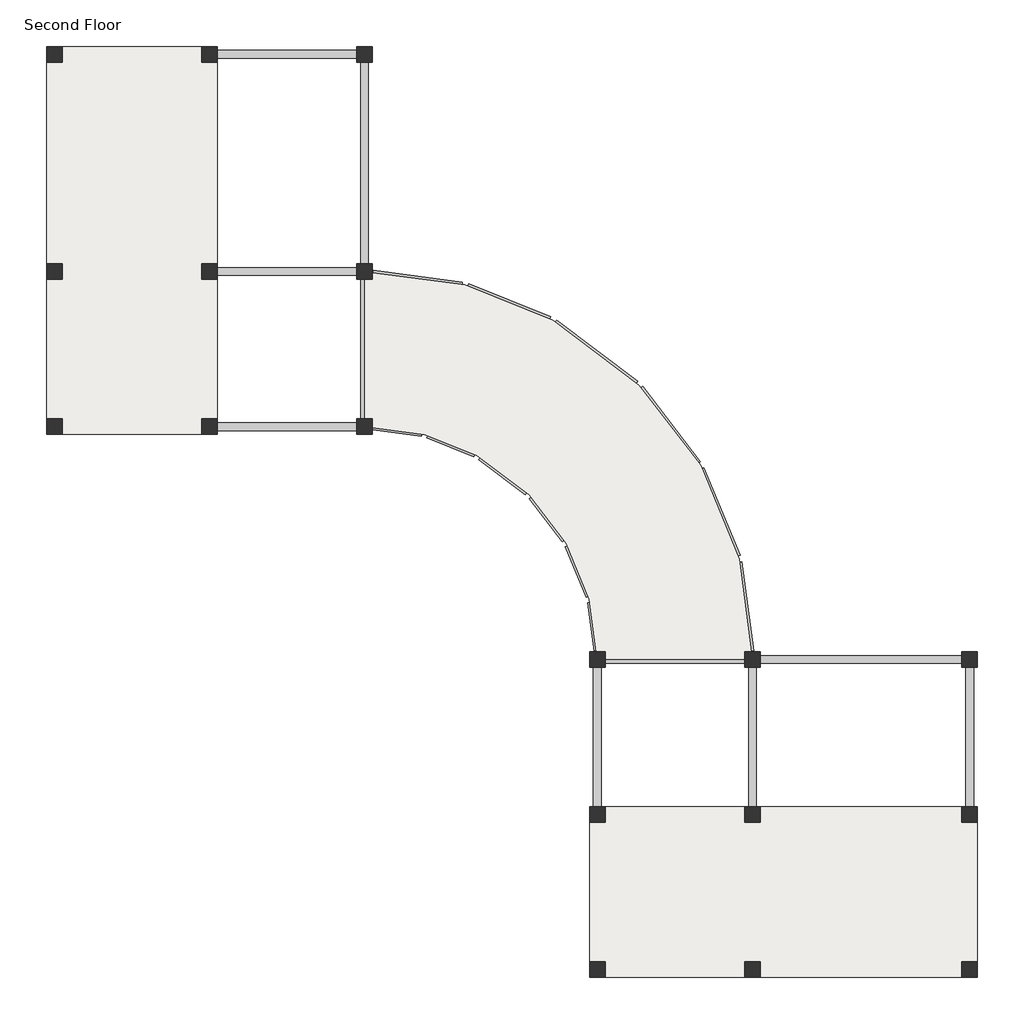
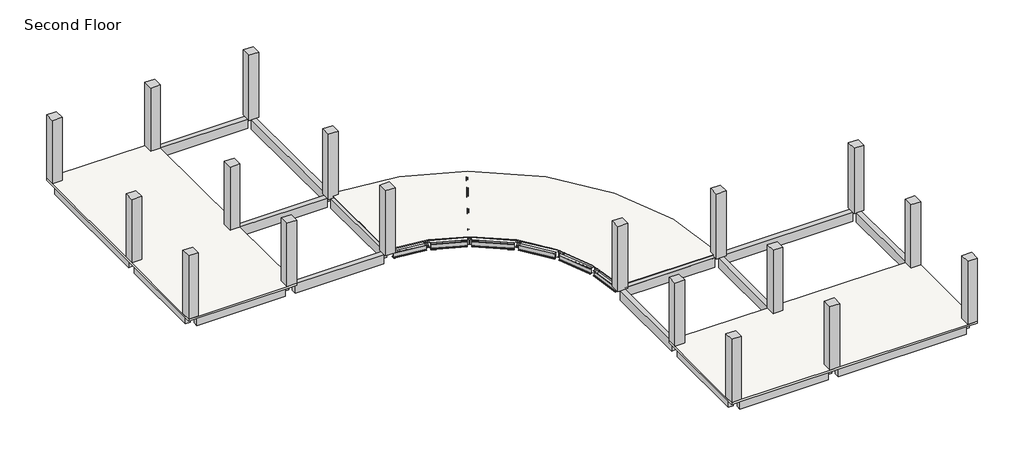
# One storey: 42 beams, 18 columns, 3 slabs.
"""IFC4 building model written with IfcOpenShell, lengths in millimetres."""

from ifc_helpers import new_model, si_unit, frame, origin, place, context, project, spatial, polyline, outline, extrude, faceted_brep, transform, mapped, element, save
from components import w_wide_flange_w14x30_ff084ddf, w_wide_flange_w14x30_d1529a52, w_wide_flange_w14x30_957304bb, w_wide_flange_w14x30_791045be, w_wide_flange_w14x30_2022d981, w_wide_flange_w14x30_3de07e4c, w_wide_flange_w14x30_6ec3b930, w_wide_flange_w14x30_ee78d664, w_wide_flange_w14x30_b7f05329, w_wide_flange_w14x30_b412955c, w_wide_flange_w14x30_b4bd2e2d, w_wide_flange_w14x30_0931c2c5

model = new_model("IFC4")

# Units and contexts
model_context = context("Model", 3, world=origin())
ifc_project = project(units=[si_unit("LENGTHUNIT", "METRE", prefix="MILLI")], contexts=[model_context])

# Site, building, storey
site = spatial("IfcSite", under=ifc_project)
building = spatial("IfcBuilding", under=site)
storey = spatial("IfcBuildingStorey", under=building, Name="Second Floor", Elevation=3048.0)

# Beams
placement = place(None, origin())
element("IfcBeam", 1, ObjectType="Concrete-Rectangular Beam : 12 x 24", at=placement, inside=storey, context=model_context, shape_type="SweptSolid", body=[
    extrude(outline(polyline([(-26717.2148109, 13379.849478), (-26717.2148109, 13075.049478), (-32203.6148109, 13075.049478), (-32203.6148109, 13379.849478), (-26717.2148109, 13379.849478)])), frame((0.0, 0.0, 2438.4), z_axis=(0.0, 0.0, 1.0), x_axis=(1.0, 0.0, 0.0)), (0.0, 0.0, 1.0), 609.6),
])
element("IfcBeam", 2, ObjectType="Concrete-Rectangular Beam : 12 x 24", at=placement, inside=storey, context=model_context, shape_type="SweptSolid", body=[
    extrude(outline(polyline([(-32813.2148109, 13379.849478), (-32813.2148109, 13075.049478), (-38299.6148109, 13075.049478), (-38299.6148109, 13379.849478), (-32813.2148109, 13379.849478)])), frame((0.0, 0.0, 2438.4), z_axis=(0.0, 0.0, 1.0), x_axis=(1.0, 0.0, 0.0)), (0.0, 0.0, 1.0), 609.6),
])
element("IfcBeam", 3, ObjectType="Concrete-Rectangular Beam : 12 x 24", at=placement, inside=storey, context=model_context, shape_type="SweptSolid", body=[
    extrude(outline(polyline([(-26717.2148109, -1250.550522), (-26717.2148109, -1555.350522), (-32203.6148109, -1555.350522), (-32203.6148109, -1250.550522), (-26717.2148109, -1250.550522)])), frame((0.0, 0.0, 2438.4), z_axis=(0.0, 0.0, 1.0), x_axis=(1.0, 0.0, 0.0)), (0.0, 0.0, 1.0), 609.6),
])
element("IfcBeam", 4, ObjectType="Concrete-Rectangular Beam : 12 x 24", at=placement, inside=storey, context=model_context, shape_type="SweptSolid", body=[
    extrude(outline(polyline([(-32813.2148109, -1250.550522), (-32813.2148109, -1555.350522), (-38299.6148109, -1555.350522), (-38299.6148109, -1250.550522), (-32813.2148109, -1250.550522)])), frame((0.0, 0.0, 2438.4), z_axis=(0.0, 0.0, 1.0), x_axis=(1.0, 0.0, 0.0)), (0.0, 0.0, 1.0), 609.6),
])
element("IfcBeam", 5, ObjectType="Concrete-Rectangular Beam : 12 x 24", at=placement, inside=storey, context=model_context, shape_type="SweptSolid", body=[
    extrude(outline(polyline([(-26717.2148109, 4845.449478), (-26717.2148109, 4540.649478), (-32203.6148109, 4540.649478), (-32203.6148109, 4845.449478), (-26717.2148109, 4845.449478)])), frame((0.0, 0.0, 2438.4), z_axis=(0.0, 0.0, 1.0), x_axis=(1.0, 0.0, 0.0)), (0.0, 0.0, 1.0), 609.6),
])
element("IfcBeam", 6, ObjectType="Concrete-Rectangular Beam : 12 x 24", at=placement, inside=storey, context=model_context, shape_type="SweptSolid", body=[
    extrude(outline(polyline([(-32813.2148109, 4845.449478), (-32813.2148109, 4540.649478), (-38299.6148109, 4540.649478), (-38299.6148109, 4845.449478), (-32813.2148109, 4845.449478)])), frame((0.0, 0.0, 2438.4), z_axis=(0.0, 0.0, 1.0), x_axis=(1.0, 0.0, 0.0)), (0.0, 0.0, 1.0), 609.6),
])
element("IfcBeam", 7, ObjectType="Concrete-Rectangular Beam : 12 x 24", at=placement, inside=storey, context=model_context, shape_type="SweptSolid", body=[
    extrude(outline(polyline([(-26260.0148109, -1098.150522), (-26564.8148109, -1098.150522), (-26564.8148109, 4388.249478), (-26260.0148109, 4388.249478), (-26260.0148109, -1098.150522)])), frame((0.0, 0.0, 2438.4), z_axis=(0.0, 0.0, 1.0), x_axis=(1.0, 0.0, 0.0)), (0.0, 0.0, 1.0), 609.6),
])
element("IfcBeam", 8, ObjectType="Concrete-Rectangular Beam : 12 x 24", at=placement, inside=storey, context=model_context, shape_type="SweptSolid", body=[
    extrude(outline(polyline([(-26260.0148109, 4997.849478), (-26564.8148109, 4997.849478), (-26564.8148109, 12922.649478), (-26260.0148109, 12922.649478), (-26260.0148109, 4997.849478)])), frame((0.0, 0.0, 2438.4), z_axis=(0.0, 0.0, 1.0), x_axis=(1.0, 0.0, 0.0)), (0.0, 0.0, 1.0), 609.6),
])
element("IfcBeam", 9, ObjectType="Concrete-Rectangular Beam : 12 x 24", at=placement, inside=storey, context=model_context, shape_type="SweptSolid", body=[
    extrude(outline(polyline([(-32356.0148109, -1098.150522), (-32660.8148109, -1098.150522), (-32660.8148109, 4388.249478), (-32356.0148109, 4388.249478), (-32356.0148109, -1098.150522)])), frame((0.0, 0.0, 2438.4), z_axis=(0.0, 0.0, 1.0), x_axis=(1.0, 0.0, 0.0)), (0.0, 0.0, 1.0), 609.6),
])
element("IfcBeam", 10, ObjectType="Concrete-Rectangular Beam : 12 x 24", at=placement, inside=storey, context=model_context, shape_type="SweptSolid", body=[
    extrude(outline(polyline([(-32356.0148109, 4997.849478), (-32660.8148109, 4997.849478), (-32660.8148109, 12922.649478), (-32356.0148109, 12922.649478), (-32356.0148109, 4997.849478)])), frame((0.0, 0.0, 2438.4), z_axis=(0.0, 0.0, 1.0), x_axis=(1.0, 0.0, 0.0)), (0.0, 0.0, 1.0), 609.6),
])
element("IfcBeam", 11, ObjectType="Concrete-Rectangular Beam : 12 x 24", at=placement, inside=storey, context=model_context, shape_type="SweptSolid", body=[
    extrude(outline(polyline([(-38452.0148109, -1098.150522), (-38756.8148109, -1098.150522), (-38756.8148109, 4388.249478), (-38452.0148109, 4388.249478), (-38452.0148109, -1098.150522)])), frame((0.0, 0.0, 2438.4), z_axis=(0.0, 0.0, 1.0), x_axis=(1.0, 0.0, 0.0)), (0.0, 0.0, 1.0), 609.6),
])
element("IfcBeam", 12, ObjectType="Concrete-Rectangular Beam : 12 x 24", at=placement, inside=storey, context=model_context, shape_type="SweptSolid", body=[
    extrude(outline(polyline([(-38452.0148109, 4997.849478), (-38756.8148109, 4997.849478), (-38756.8148109, 12922.649478), (-38452.0148109, 12922.649478), (-38452.0148109, 4997.849478)])), frame((0.0, 0.0, 2438.4), z_axis=(0.0, 0.0, 1.0), x_axis=(1.0, 0.0, 0.0)), (0.0, 0.0, 1.0), 609.6),
])
element("IfcBeam", 13, ObjectType="Concrete-Rectangular Beam : 12 x 24", at=placement, inside=storey, context=model_context, shape_type="SweptSolid", body=[
    extrude(outline(polyline([(-2790.4148109, -10851.750522), (-2485.6148109, -10851.750522), (-2485.6148109, -16338.150522), (-2790.4148109, -16338.150522), (-2790.4148109, -10851.750522)])), frame((0.0, 0.0, 2438.4), z_axis=(0.0, 0.0, 1.0), x_axis=(1.0, 0.0, 0.0)), (0.0, 0.0, 1.0), 609.6),
])
element("IfcBeam", 14, ObjectType="Concrete-Rectangular Beam : 12 x 24", at=placement, inside=storey, context=model_context, shape_type="SweptSolid", body=[
    extrude(outline(polyline([(-2790.4148109, -16947.750522), (-2485.6148109, -16947.750522), (-2485.6148109, -22434.150522), (-2790.4148109, -22434.150522), (-2790.4148109, -16947.750522)])), frame((0.0, 0.0, 2438.4), z_axis=(0.0, 0.0, 1.0), x_axis=(1.0, 0.0, 0.0)), (0.0, 0.0, 1.0), 609.6),
])
element("IfcBeam", 15, ObjectType="Concrete-Rectangular Beam : 12 x 24", at=placement, inside=storey, context=model_context, shape_type="SweptSolid", body=[
    extrude(outline(polyline([(-17420.8148109, -10851.750522), (-17116.0148109, -10851.750522), (-17116.0148109, -16338.150522), (-17420.8148109, -16338.150522), (-17420.8148109, -10851.750522)])), frame((0.0, 0.0, 2438.4), z_axis=(0.0, 0.0, 1.0), x_axis=(1.0, 0.0, 0.0)), (0.0, 0.0, 1.0), 609.6),
])
element("IfcBeam", 16, ObjectType="Concrete-Rectangular Beam : 12 x 24", at=placement, inside=storey, context=model_context, shape_type="SweptSolid", body=[
    extrude(outline(polyline([(-17420.8148109, -16947.750522), (-17116.0148109, -16947.750522), (-17116.0148109, -22434.150522), (-17420.8148109, -22434.150522), (-17420.8148109, -16947.750522)])), frame((0.0, 0.0, 2438.4), z_axis=(0.0, 0.0, 1.0), x_axis=(1.0, 0.0, 0.0)), (0.0, 0.0, 1.0), 609.6),
])
element("IfcBeam", 17, ObjectType="Concrete-Rectangular Beam : 12 x 24", at=placement, inside=storey, context=model_context, shape_type="SweptSolid", body=[
    extrude(outline(polyline([(-11324.8148109, -10851.750522), (-11020.0148109, -10851.750522), (-11020.0148109, -16338.150522), (-11324.8148109, -16338.150522), (-11324.8148109, -10851.750522)])), frame((0.0, 0.0, 2438.4), z_axis=(0.0, 0.0, 1.0), x_axis=(1.0, 0.0, 0.0)), (0.0, 0.0, 1.0), 609.6),
])
element("IfcBeam", 18, ObjectType="Concrete-Rectangular Beam : 12 x 24", at=placement, inside=storey, context=model_context, shape_type="SweptSolid", body=[
    extrude(outline(polyline([(-11324.8148109, -16947.750522), (-11020.0148109, -16947.750522), (-11020.0148109, -22434.150522), (-11324.8148109, -22434.150522), (-11324.8148109, -16947.750522)])), frame((0.0, 0.0, 2438.4), z_axis=(0.0, 0.0, 1.0), x_axis=(1.0, 0.0, 0.0)), (0.0, 0.0, 1.0), 609.6),
])
element("IfcBeam", 19, ObjectType="Concrete-Rectangular Beam : 12 x 24", at=placement, inside=storey, context=model_context, shape_type="SweptSolid", body=[
    extrude(outline(polyline([(-16963.6148109, -10699.350522), (-16963.6148109, -10394.550522), (-11477.2148109, -10394.550522), (-11477.2148109, -10699.350522), (-16963.6148109, -10699.350522)])), frame((0.0, 0.0, 2438.4), z_axis=(0.0, 0.0, 1.0), x_axis=(1.0, 0.0, 0.0)), (0.0, 0.0, 1.0), 609.6),
])
element("IfcBeam", 20, ObjectType="Concrete-Rectangular Beam : 12 x 24", at=placement, inside=storey, context=model_context, shape_type="SweptSolid", body=[
    extrude(outline(polyline([(-10867.6148109, -10699.350522), (-10867.6148109, -10394.550522), (-2942.8148109, -10394.550522), (-2942.8148109, -10699.350522), (-10867.6148109, -10699.350522)])), frame((0.0, 0.0, 2438.4), z_axis=(0.0, 0.0, 1.0), x_axis=(1.0, 0.0, 0.0)), (0.0, 0.0, 1.0), 609.6),
])
element("IfcBeam", 21, ObjectType="Concrete-Rectangular Beam : 12 x 24", at=placement, inside=storey, context=model_context, shape_type="SweptSolid", body=[
    extrude(outline(polyline([(-16963.6148109, -16795.350522), (-16963.6148109, -16490.550522), (-11477.2148109, -16490.550522), (-11477.2148109, -16795.350522), (-16963.6148109, -16795.350522)])), frame((0.0, 0.0, 2438.4), z_axis=(0.0, 0.0, 1.0), x_axis=(1.0, 0.0, 0.0)), (0.0, 0.0, 1.0), 609.6),
])
element("IfcBeam", 22, ObjectType="Concrete-Rectangular Beam : 12 x 24", at=placement, inside=storey, context=model_context, shape_type="SweptSolid", body=[
    extrude(outline(polyline([(-10867.6148109, -16795.350522), (-10867.6148109, -16490.550522), (-2942.8148109, -16490.550522), (-2942.8148109, -16795.350522), (-10867.6148109, -16795.350522)])), frame((0.0, 0.0, 2438.4), z_axis=(0.0, 0.0, 1.0), x_axis=(1.0, 0.0, 0.0)), (0.0, 0.0, 1.0), 609.6),
])
element("IfcBeam", 23, ObjectType="Concrete-Rectangular Beam : 12 x 24", at=placement, inside=storey, context=model_context, shape_type="SweptSolid", body=[
    extrude(outline(polyline([(-16963.6148109, -22891.350522), (-16963.6148109, -22586.550522), (-11477.2148109, -22586.550522), (-11477.2148109, -22891.350522), (-16963.6148109, -22891.350522)])), frame((0.0, 0.0, 2438.4), z_axis=(0.0, 0.0, 1.0), x_axis=(1.0, 0.0, 0.0)), (0.0, 0.0, 1.0), 609.6),
])
element("IfcBeam", 24, ObjectType="Concrete-Rectangular Beam : 12 x 24", at=placement, inside=storey, context=model_context, shape_type="SweptSolid", body=[
    extrude(outline(polyline([(-10867.6148109, -22891.350522), (-10867.6148109, -22586.550522), (-2942.8148109, -22586.550522), (-2942.8148109, -22891.350522), (-10867.6148109, -22891.350522)])), frame((0.0, 0.0, 2438.4), z_axis=(0.0, 0.0, 1.0), x_axis=(1.0, 0.0, 0.0)), (0.0, 0.0, 1.0), 609.6),
])
w_wide_flange_w14x30_shape = w_wide_flange_w14x30_ff084ddf(model_context)
element("IfcBeam", 25, ObjectType="W-Wide Flange : W14X30", at=placement, inside=storey, context=model_context, shape_type="MappedRepresentation", body=[
    mapped(w_wide_flange_w14x30_shape, transform((-23256.893013, 1229.6171521, 2745.74), x_axis=(0.2588190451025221, 0.9659258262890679, 0.0), y_axis=(-0.9659258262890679, 0.2588190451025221, 0.0), z_axis=(0.0, 0.0, 1.0))),
])
element("IfcBeam", 26, ObjectType="W-Wide Flange : W14X30", at=placement, inside=storey, context=model_context, shape_type="MappedRepresentation", body=[
    mapped(w_wide_flange_w14x30_shape, transform((-20501.6159208, 116.4129475, 2745.74), x_axis=(0.4848096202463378, 0.8746197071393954, 0.0), y_axis=(-0.8746197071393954, 0.4848096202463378, 0.0), z_axis=(0.0, 0.0, 1.0))),
])
element("IfcBeam", 27, ObjectType="W-Wide Flange : W14X30", at=placement, inside=storey, context=model_context, shape_type="MappedRepresentation", body=[
    mapped(w_wide_flange_w14x30_shape, transform((-17791.3689346, -1925.9046457, 2745.74), x_axis=(0.7071067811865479, 0.707106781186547, 0.0), y_axis=(-0.707106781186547, 0.7071067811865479, 0.0), z_axis=(0.0, 0.0, 1.0))),
])
element("IfcBeam", 28, ObjectType="W-Wide Flange : W14X30", at=placement, inside=storey, context=model_context, shape_type="MappedRepresentation", body=[
    mapped(w_wide_flange_w14x30_shape, transform((-15853.8330879, -4450.950522, 2745.74), x_axis=(0.8660254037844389, 0.49999999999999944, 0.0), y_axis=(-0.49999999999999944, 0.8660254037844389, 0.0), z_axis=(0.0, 0.0, 1.0))),
])
element("IfcBeam", 29, ObjectType="W-Wide Flange : W14X30", at=placement, inside=storey, context=model_context, shape_type="MappedRepresentation", body=[
    mapped(w_wide_flange_w14x30_shape, transform((-14635.8471368, -7391.4287241, 2745.74), x_axis=(0.9659258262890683, 0.2588190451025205, 0.0), y_axis=(-0.2588190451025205, 0.9659258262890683, 0.0), z_axis=(0.0, 0.0, 1.0))),
])
w_wide_flange_w14x30_2_shape = w_wide_flange_w14x30_d1529a52(model_context)
element("IfcBeam", 30, ObjectType="W-Wide Flange : W14X30", at=placement, inside=storey, context=model_context, shape_type="MappedRepresentation", body=[
    mapped(w_wide_flange_w14x30_2_shape, transform((-25229.0941367, -1558.7376442, 2745.74), x_axis=(0.9914448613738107, -0.13052619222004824, 0.0), y_axis=(0.13052619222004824, 0.9914448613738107, 0.0), z_axis=(0.0, 0.0, 1.0))),
])
w_wide_flange_w14x30_3_shape = w_wide_flange_w14x30_957304bb(model_context)
element("IfcBeam", 31, ObjectType="W-Wide Flange : W14X30", at=placement, inside=storey, context=model_context, shape_type="MappedRepresentation", body=[
    mapped(w_wide_flange_w14x30_3_shape, transform((-23012.5445529, -2131.9763431, 2745.74), x_axis=(0.9271838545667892, -0.3746065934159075, 0.0), y_axis=(0.3746065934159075, 0.9271838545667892, 0.0), z_axis=(0.0, 0.0, 1.0))),
])
w_wide_flange_w14x30_4_shape = w_wide_flange_w14x30_791045be(model_context)
element("IfcBeam", 32, ObjectType="W-Wide Flange : W14X30", at=placement, inside=storey, context=model_context, shape_type="MappedRepresentation", body=[
    mapped(w_wide_flange_w14x30_4_shape, transform((-20962.9730235, -3315.2970173, 2745.74), x_axis=(0.7986355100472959, -0.6018150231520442, 0.0), y_axis=(0.6018150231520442, 0.7986355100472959, 0.0), z_axis=(0.0, 0.0, 1.0))),
])
w_wide_flange_w14x30_5_shape = w_wide_flange_w14x30_2022d981(model_context)
element("IfcBeam", 33, ObjectType="W-Wide Flange : W14X30", at=placement, inside=storey, context=model_context, shape_type="MappedRepresentation", body=[
    mapped(w_wide_flange_w14x30_5_shape, transform((-24440.2136872, 4433.4042743, 2745.74), x_axis=(0.9914448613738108, -0.13052619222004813, 0.0), y_axis=(0.13052619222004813, 0.9914448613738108, 0.0), z_axis=(0.0, 0.0, 1.0))),
])
w_wide_flange_w14x30_6_shape = w_wide_flange_w14x30_3de07e4c(model_context)
element("IfcBeam", 34, ObjectType="W-Wide Flange : W14X30", at=placement, inside=storey, context=model_context, shape_type="MappedRepresentation", body=[
    mapped(w_wide_flange_w14x30_6_shape, transform((-20745.9643809, 3478.0064427, 2745.74), x_axis=(0.9271838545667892, -0.3746065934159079, 0.0), y_axis=(0.3746065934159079, 0.9271838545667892, 0.0), z_axis=(0.0, 0.0, 1.0))),
])
w_wide_flange_w14x30_7_shape = w_wide_flange_w14x30_6ec3b930(model_context)
element("IfcBeam", 35, ObjectType="W-Wide Flange : W14X30", at=placement, inside=storey, context=model_context, shape_type="MappedRepresentation", body=[
    mapped(w_wide_flange_w14x30_7_shape, transform((-17330.011832, 1505.8053191, 2745.74), x_axis=(0.798635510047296, -0.6018150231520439, 0.0), y_axis=(0.6018150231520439, 0.798635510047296, 0.0), z_axis=(0.0, 0.0, 1.0))),
])
w_wide_flange_w14x30_8_shape = w_wide_flange_w14x30_ee78d664(model_context)
element("IfcBeam", 36, ObjectType="W-Wide Flange : W14X30", at=placement, inside=storey, context=model_context, shape_type="MappedRepresentation", body=[
    mapped(w_wide_flange_w14x30_8_shape, transform((-19220.0544612, -5028.0583184, 2745.74), x_axis=(0.6087614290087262, -0.793353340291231, 0.0), y_axis=(0.793353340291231, 0.6087614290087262, 0.0), z_axis=(0.0, 0.0, 1.0))),
])
element("IfcBeam", 37, ObjectType="W-Wide Flange : W14X30", at=placement, inside=storey, context=model_context, shape_type="MappedRepresentation", body=[
    mapped(w_wide_flange_w14x30_8_shape, transform((-18036.733787, -7077.6298478, 2745.74), x_axis=(0.38268343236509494, -0.9238795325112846, 0.0), y_axis=(0.9238795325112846, 0.38268343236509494, 0.0), z_axis=(0.0, 0.0, 1.0))),
])
w_wide_flange_w14x30_9_shape = w_wide_flange_w14x30_b7f05329(model_context)
element("IfcBeam", 38, ObjectType="W-Wide Flange : W14X30", at=placement, inside=storey, context=model_context, shape_type="MappedRepresentation", body=[
    mapped(w_wide_flange_w14x30_9_shape, transform((-14425.1475614, -1348.7968493, 2745.74), x_axis=(0.608761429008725, -0.7933533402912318, 0.0), y_axis=(0.7933533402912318, 0.608761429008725, 0.0), z_axis=(0.0, 0.0, 1.0))),
])
element("IfcBeam", 39, ObjectType="W-Wide Flange : W14X30", at=placement, inside=storey, context=model_context, shape_type="MappedRepresentation", body=[
    mapped(w_wide_flange_w14x30_9_shape, transform((-12452.9464377, -4764.7493983, 2745.74), x_axis=(0.38268343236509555, -0.9238795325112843, 0.0), y_axis=(0.9238795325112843, 0.38268343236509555, 0.0), z_axis=(0.0, 0.0, 1.0))),
])
w_wide_flange_w14x30_10_shape = w_wide_flange_w14x30_b412955c(model_context)
element("IfcBeam", 40, ObjectType="W-Wide Flange : W14X30", at=placement, inside=storey, context=model_context, shape_type="MappedRepresentation", body=[
    mapped(w_wide_flange_w14x30_10_shape, transform((-14220.4148109, -10546.950522, 2745.74), x_axis=(1.0, 0.0, 0.0), y_axis=(0.0, 1.0, 0.0), z_axis=(0.0, 0.0, 1.0))),
])
w_wide_flange_w14x30_11_shape = w_wide_flange_w14x30_b4bd2e2d(model_context)
element("IfcBeam", 41, ObjectType="W-Wide Flange : W14X30", at=placement, inside=storey, context=model_context, shape_type="MappedRepresentation", body=[
    mapped(w_wide_flange_w14x30_11_shape, transform((-17424.2019331, -9363.6298478, 2745.74), x_axis=(0.13052619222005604, -0.9914448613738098, 0.0), y_axis=(0.9914448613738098, 0.13052619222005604, 0.0), z_axis=(0.0, 0.0, 1.0))),
])
w_wide_flange_w14x30_12_shape = w_wide_flange_w14x30_0931c2c5(model_context)
element("IfcBeam", 42, ObjectType="W-Wide Flange : W14X30", at=placement, inside=storey, context=model_context, shape_type="MappedRepresentation", body=[
    mapped(w_wide_flange_w14x30_12_shape, transform((-11432.0600145, -8574.7493983, 2745.74), x_axis=(0.13052619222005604, -0.9914448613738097, 0.0), y_axis=(0.9914448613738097, 0.13052619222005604, 0.0), z_axis=(0.0, 0.0, 1.0))),
])

# Columns
element("IfcColumn", 43, ObjectType="Concrete-Rectangular-Column : 24 x 24", at=placement, inside=storey, context=model_context, shape_type="Brep", body=[
    faceted_brep([(-26717.2148109, -1707.750522, 3048.0), (-26717.2148109, -1098.150522, 3048.0), (-26107.6148109, -1098.150522, 3048.0), (-26107.6148109, -1707.750522, 3048.0), (-26717.2148109, -1707.750522, 7315.2), (-26717.2148109, -1098.150522, 7315.2), (-26107.6148109, -1098.150522, 7315.2), (-26107.6148109, -1098.150522, 3168.65), (-26412.4148109, -1098.150522, 3168.65), (-26412.4148109, -1098.150522, 3130.55), (-26107.6148109, -1098.150522, 3130.55), (-26107.6148109, -1443.0782032, 3130.55), (-26107.6148109, -1443.0782032, 3168.65), (-26107.6148109, -1707.750522, 7315.2), (-26412.4148109, -1402.950522, 3130.55), (-26412.4148109, -1402.950522, 3168.65)], [[[0, 1, 2, 3]], [[1, 0, 4, 5]], [[2, 1, 5, 6, 7, 8, 9, 10]], [[3, 2, 10, 11, 12, 7, 6, 13]], [[0, 3, 13, 4]], [[5, 4, 13, 6]], [[9, 14, 11, 10]], [[12, 15, 8, 7]], [[14, 15, 12, 11]], [[15, 14, 9, 8]]]),
])
element("IfcColumn", 44, ObjectType="Concrete-Rectangular-Column : 24 x 24", at=placement, inside=storey, context=model_context, shape_type="Brep", body=[
    faceted_brep([(-26717.2148109, 4388.249478, 3048.0), (-26717.2148109, 4997.849478, 3048.0), (-26107.6148109, 4997.849478, 3048.0), (-26107.6148109, 4388.249478, 3048.0), (-26717.2148109, 4388.249478, 7315.2), (-26717.2148109, 4997.849478, 7315.2), (-26107.6148109, 4997.849478, 7315.2), (-26107.6148109, 4388.249478, 7315.2), (-26107.6148109, 4388.249478, 3168.65), (-26107.6148109, 4652.9217968, 3168.65), (-26107.6148109, 4652.9217968, 3130.55), (-26107.6148109, 4388.249478, 3130.55), (-26412.4148109, 4388.249478, 3130.55), (-26412.4148109, 4388.249478, 3168.65), (-26412.4148109, 4693.049478, 3130.55), (-26412.4148109, 4693.049478, 3168.65)], [[[0, 1, 2, 3]], [[1, 0, 4, 5]], [[2, 1, 5, 6]], [[3, 2, 6, 7, 8, 9, 10, 11]], [[0, 3, 11, 12, 13, 8, 7, 4]], [[5, 4, 7, 6]], [[14, 12, 11, 10]], [[15, 9, 8, 13]], [[15, 14, 10, 9]], [[14, 15, 13, 12]]]),
])
element("IfcColumn", 45, ObjectType="Concrete-Rectangular-Column : 24 x 24", at=placement, inside=storey, context=model_context, shape_type="SweptSolid", body=[
    extrude(outline(polyline([(-26717.2148109, 12922.649478), (-26717.2148109, 13532.249478), (-26107.6148109, 13532.249478), (-26107.6148109, 12922.649478), (-26717.2148109, 12922.649478)])), frame((0.0, 0.0, 3048.0), z_axis=(0.0, 0.0, 1.0), x_axis=(1.0, 0.0, 0.0)), (0.0, 0.0, 1.0), 4267.2),
])
element("IfcColumn", 46, ObjectType="Concrete-Rectangular-Column : 24 x 24", at=placement, inside=storey, context=model_context, shape_type="SweptSolid", body=[
    extrude(outline(polyline([(-32813.2148109, -1707.750522), (-32813.2148109, -1098.150522), (-32203.6148109, -1098.150522), (-32203.6148109, -1707.750522), (-32813.2148109, -1707.750522)])), frame((0.0, 0.0, 3168.65), z_axis=(0.0, 0.0, 1.0), x_axis=(1.0, 0.0, 0.0)), (0.0, 0.0, 1.0), 4146.55),
])
element("IfcColumn", 47, ObjectType="Concrete-Rectangular-Column : 24 x 24", at=placement, inside=storey, context=model_context, shape_type="SweptSolid", body=[
    extrude(outline(polyline([(-32813.2148109, 4388.249478), (-32813.2148109, 4997.849478), (-32203.6148109, 4997.849478), (-32203.6148109, 4388.249478), (-32813.2148109, 4388.249478)])), frame((0.0, 0.0, 3168.65), z_axis=(0.0, 0.0, 1.0), x_axis=(1.0, 0.0, 0.0)), (0.0, 0.0, 1.0), 4146.55),
])
element("IfcColumn", 48, ObjectType="Concrete-Rectangular-Column : 24 x 24", at=placement, inside=storey, context=model_context, shape_type="SweptSolid", body=[
    extrude(outline(polyline([(-32813.2148109, 12922.649478), (-32813.2148109, 13532.249478), (-32203.6148109, 13532.249478), (-32203.6148109, 12922.649478), (-32813.2148109, 12922.649478)])), frame((0.0, 0.0, 3168.65), z_axis=(0.0, 0.0, 1.0), x_axis=(1.0, 0.0, 0.0)), (0.0, 0.0, 1.0), 4146.55),
])
element("IfcColumn", 49, ObjectType="Concrete-Rectangular-Column : 24 x 24", at=placement, inside=storey, context=model_context, shape_type="SweptSolid", body=[
    extrude(outline(polyline([(-38909.2148109, -1707.750522), (-38909.2148109, -1098.150522), (-38299.6148109, -1098.150522), (-38299.6148109, -1707.750522), (-38909.2148109, -1707.750522)])), frame((0.0, 0.0, 3168.65), z_axis=(0.0, 0.0, 1.0), x_axis=(1.0, 0.0, 0.0)), (0.0, 0.0, 1.0), 4146.55),
])
element("IfcColumn", 50, ObjectType="Concrete-Rectangular-Column : 24 x 24", at=placement, inside=storey, context=model_context, shape_type="SweptSolid", body=[
    extrude(outline(polyline([(-38909.2148109, 4388.249478), (-38909.2148109, 4997.849478), (-38299.6148109, 4997.849478), (-38299.6148109, 4388.249478), (-38909.2148109, 4388.249478)])), frame((0.0, 0.0, 3168.65), z_axis=(0.0, 0.0, 1.0), x_axis=(1.0, 0.0, 0.0)), (0.0, 0.0, 1.0), 4146.55),
])
element("IfcColumn", 51, ObjectType="Concrete-Rectangular-Column : 24 x 24", at=placement, inside=storey, context=model_context, shape_type="SweptSolid", body=[
    extrude(outline(polyline([(-38909.2148109, 12922.649478), (-38909.2148109, 13532.249478), (-38299.6148109, 13532.249478), (-38299.6148109, 12922.649478), (-38909.2148109, 12922.649478)])), frame((0.0, 0.0, 3168.65), z_axis=(0.0, 0.0, 1.0), x_axis=(1.0, 0.0, 0.0)), (0.0, 0.0, 1.0), 4146.55),
])
element("IfcColumn", 52, ObjectType="Concrete-Rectangular-Column : 24 x 24", at=placement, inside=storey, context=model_context, shape_type="Brep", body=[
    faceted_brep([(-16963.6148109, -10851.750522, 3048.0), (-17573.2148109, -10851.750522, 3048.0), (-17573.2148109, -10242.150522, 3048.0), (-16963.6148109, -10242.150522, 3048.0), (-16963.6148109, -10851.750522, 7315.2), (-17573.2148109, -10851.750522, 7315.2), (-16963.6148109, -10242.150522, 3130.55), (-16963.6148109, -10546.950522, 3130.55), (-16963.6148109, -10546.950522, 3168.65), (-16963.6148109, -10242.150522, 3168.65), (-16963.6148109, -10242.150522, 7315.2), (-17573.2148109, -10242.150522, 7315.2), (-17308.5424921, -10242.150522, 3168.65), (-17308.5424921, -10242.150522, 3130.55), (-17268.4148109, -10546.950522, 3130.55), (-17268.4148109, -10546.950522, 3168.65)], [[[0, 1, 2, 3]], [[1, 0, 4, 5]], [[0, 3, 6, 7, 8, 9, 10, 4]], [[3, 2, 11, 10, 9, 12, 13, 6]], [[2, 1, 5, 11]], [[5, 4, 10, 11]], [[13, 14, 7, 6]], [[8, 15, 12, 9]], [[14, 15, 8, 7]], [[15, 14, 13, 12]]]),
])
element("IfcColumn", 53, ObjectType="Concrete-Rectangular-Column : 24 x 24", at=placement, inside=storey, context=model_context, shape_type="Brep", body=[
    faceted_brep([(-10867.6148109, -10851.750522, 3048.0), (-11477.2148109, -10851.750522, 3048.0), (-11477.2148109, -10242.150522, 3048.0), (-10867.6148109, -10242.150522, 3048.0), (-10867.6148109, -10851.750522, 7315.2), (-11477.2148109, -10851.750522, 7315.2), (-10867.6148109, -10242.150522, 7315.2), (-11477.2148109, -10242.150522, 3130.55), (-11212.5424921, -10242.150522, 3130.55), (-11212.5424921, -10242.150522, 3168.65), (-11477.2148109, -10242.150522, 3168.65), (-11477.2148109, -10242.150522, 7315.2), (-11477.2148109, -10546.950522, 3168.65), (-11477.2148109, -10546.950522, 3130.55), (-11172.4148109, -10546.950522, 3130.55), (-11172.4148109, -10546.950522, 3168.65)], [[[0, 1, 2, 3]], [[1, 0, 4, 5]], [[0, 3, 6, 4]], [[3, 2, 7, 8, 9, 10, 11, 6]], [[2, 1, 5, 11, 10, 12, 13, 7]], [[5, 4, 6, 11]], [[13, 14, 8, 7]], [[9, 15, 12, 10]], [[14, 15, 9, 8]], [[15, 14, 13, 12]]]),
])
element("IfcColumn", 54, ObjectType="Concrete-Rectangular-Column : 24 x 24", at=placement, inside=storey, context=model_context, shape_type="SweptSolid", body=[
    extrude(outline(polyline([(-2942.8148109, -10851.750522), (-2942.8148109, -10242.150522), (-2333.2148109, -10242.150522), (-2333.2148109, -10851.750522), (-2942.8148109, -10851.750522)])), frame((0.0, 0.0, 3048.0), z_axis=(0.0, 0.0, 1.0), x_axis=(1.0, 0.0, 0.0)), (0.0, 0.0, 1.0), 4267.2),
])
element("IfcColumn", 55, ObjectType="Concrete-Rectangular-Column : 24 x 24", at=placement, inside=storey, context=model_context, shape_type="SweptSolid", body=[
    extrude(outline(polyline([(-16963.6148109, -16947.750522), (-17573.2148109, -16947.750522), (-17573.2148109, -16338.150522), (-16963.6148109, -16338.150522), (-16963.6148109, -16947.750522)])), frame((0.0, 0.0, 3168.65), z_axis=(0.0, 0.0, 1.0), x_axis=(1.0, 0.0, 0.0)), (0.0, 0.0, 1.0), 4146.55),
])
element("IfcColumn", 56, ObjectType="Concrete-Rectangular-Column : 24 x 24", at=placement, inside=storey, context=model_context, shape_type="SweptSolid", body=[
    extrude(outline(polyline([(-10867.6148109, -16947.750522), (-11477.2148109, -16947.750522), (-11477.2148109, -16338.150522), (-10867.6148109, -16338.150522), (-10867.6148109, -16947.750522)])), frame((0.0, 0.0, 3168.65), z_axis=(0.0, 0.0, 1.0), x_axis=(1.0, 0.0, 0.0)), (0.0, 0.0, 1.0), 4146.55),
])
element("IfcColumn", 57, ObjectType="Concrete-Rectangular-Column : 24 x 24", at=placement, inside=storey, context=model_context, shape_type="SweptSolid", body=[
    extrude(outline(polyline([(-2333.2148109, -16947.750522), (-2942.8148109, -16947.750522), (-2942.8148109, -16338.150522), (-2333.2148109, -16338.150522), (-2333.2148109, -16947.750522)])), frame((0.0, 0.0, 3168.65), z_axis=(0.0, 0.0, 1.0), x_axis=(1.0, 0.0, 0.0)), (0.0, 0.0, 1.0), 4146.55),
])
element("IfcColumn", 58, ObjectType="Concrete-Rectangular-Column : 24 x 24", at=placement, inside=storey, context=model_context, shape_type="SweptSolid", body=[
    extrude(outline(polyline([(-16963.6148109, -23043.750522), (-17573.2148109, -23043.750522), (-17573.2148109, -22434.150522), (-16963.6148109, -22434.150522), (-16963.6148109, -23043.750522)])), frame((0.0, 0.0, 3168.65), z_axis=(0.0, 0.0, 1.0), x_axis=(1.0, 0.0, 0.0)), (0.0, 0.0, 1.0), 4146.55),
])
element("IfcColumn", 59, ObjectType="Concrete-Rectangular-Column : 24 x 24", at=placement, inside=storey, context=model_context, shape_type="SweptSolid", body=[
    extrude(outline(polyline([(-10867.6148109, -23043.750522), (-11477.2148109, -23043.750522), (-11477.2148109, -22434.150522), (-10867.6148109, -22434.150522), (-10867.6148109, -23043.750522)])), frame((0.0, 0.0, 3168.65), z_axis=(0.0, 0.0, 1.0), x_axis=(1.0, 0.0, 0.0)), (0.0, 0.0, 1.0), 4146.55),
])
element("IfcColumn", 60, ObjectType="Concrete-Rectangular-Column : 24 x 24", at=placement, inside=storey, context=model_context, shape_type="SweptSolid", body=[
    extrude(outline(polyline([(-2333.2148109, -23043.750522), (-2942.8148109, -23043.750522), (-2942.8148109, -22434.150522), (-2333.2148109, -22434.150522), (-2333.2148109, -23043.750522)])), frame((0.0, 0.0, 3168.65), z_axis=(0.0, 0.0, 1.0), x_axis=(1.0, 0.0, 0.0)), (0.0, 0.0, 1.0), 4146.55),
])

# Slabs
element("IfcSlab", 61, ObjectType="1 1/2\" Metal Roof Deck", at=placement, inside=storey, context=model_context, shape_type="Brep", body=[
    faceted_brep([(-26412.4148109, 4693.049478, 3130.55), (-26107.6148109, 4652.9217968, 3130.55), (-22468.0125635, 4173.7590707, 3130.55), (-19023.9161983, 2782.2538148, 3130.55), (-15636.1074656, 229.3568233, 3130.55), (-13214.1876572, -2926.950522, 3130.55), (-11691.7052182, -6602.5482746, 3130.55), (-11212.5424921, -10242.150522, 3130.55), (-11172.4148109, -10546.950522, 3130.55), (-11477.2148109, -10546.950522, 3130.55), (-16963.6148109, -10546.950522, 3130.55), (-17268.4148109, -10546.950522, 3130.55), (-17308.5424921, -10242.150522, 3130.55), (-17579.9890553, -8180.3091736, 3130.55), (-18493.4785187, -5974.950522, 3130.55), (-19946.6304037, -4081.1661148, 3130.55), (-21979.3156433, -2549.4279199, 3130.55), (-24045.7734625, -1714.5247664, 3130.55), (-26107.6148109, -1443.0782032, 3130.55), (-26412.4148109, -1402.950522, 3130.55), (-26412.4148109, -1098.150522, 3130.55), (-26412.4148109, 4388.249478, 3130.55), (-26412.4148109, 4693.049478, 3168.65), (-26412.4148109, 4388.249478, 3168.65), (-26412.4148109, -1098.150522, 3168.65), (-26412.4148109, -1402.950522, 3168.65), (-26107.6148109, -1443.0782032, 3168.65), (-24045.7734625, -1714.5247664, 3168.65), (-21979.3156433, -2549.4279199, 3168.65), (-19946.6304037, -4081.1661148, 3168.65), (-18493.4785187, -5974.950522, 3168.65), (-17579.9890553, -8180.3091736, 3168.65), (-17308.5424921, -10242.150522, 3168.65), (-17268.4148109, -10546.950522, 3168.65), (-16963.6148109, -10546.950522, 3168.65), (-11477.2148109, -10546.950522, 3168.65), (-11172.4148109, -10546.950522, 3168.65), (-11212.5424921, -10242.150522, 3168.65), (-11691.7052182, -6602.5482746, 3168.65), (-13214.1876572, -2926.950522, 3168.65), (-15636.1074656, 229.3568233, 3168.65), (-19023.9161983, 2782.2538148, 3168.65), (-22468.0125635, 4173.7590707, 3168.65), (-26107.6148109, 4652.9217968, 3168.65)], [[[0, 1, 2, 3, 4, 5, 6, 7, 8, 9, 10, 11, 12, 13, 14, 15, 16, 17, 18, 19, 20, 21]], [[22, 23, 24, 25, 26, 27, 28, 29, 30, 31, 32, 33, 34, 35, 36, 37, 38, 39, 40, 41, 42, 43]], [[2, 1, 0, 22, 43, 42]], [[3, 2, 42, 41]], [[4, 3, 41, 40]], [[5, 4, 40, 39]], [[6, 5, 39, 38]], [[8, 7, 6, 38, 37, 36]], [[11, 10, 9, 8, 36, 35, 34, 33]], [[13, 12, 11, 33, 32, 31]], [[14, 13, 31, 30]], [[15, 14, 30, 29]], [[16, 15, 29, 28]], [[17, 16, 28, 27]], [[19, 18, 17, 27, 26, 25]], [[0, 21, 20, 19, 25, 24, 23, 22]]]),
])
element("IfcSlab", 62, ObjectType="LW Concrete on Metal Deck", at=placement, inside=storey, context=model_context, shape_type="Brep", body=[
    faceted_brep([(-32203.6148109, 13532.249478, 3048.0), (-32203.6148109, 12922.649478, 3048.0), (-32203.6148109, 4997.849478, 3048.0), (-32203.6148109, 4388.249478, 3048.0), (-32203.6148109, -1098.150522, 3048.0), (-32203.6148109, -1707.750522, 3048.0), (-32813.2148109, -1707.750522, 3048.0), (-38299.6148109, -1707.750522, 3048.0), (-38909.2148109, -1707.750522, 3048.0), (-38909.2148109, -1098.150522, 3048.0), (-38909.2148109, 4388.249478, 3048.0), (-38909.2148109, 4997.849478, 3048.0), (-38909.2148109, 12922.649478, 3048.0), (-38909.2148109, 13532.249478, 3048.0), (-38299.6148109, 13532.249478, 3048.0), (-32813.2148109, 13532.249478, 3048.0), (-32203.6148109, 13532.249478, 3168.65), (-32813.2148109, 13532.249478, 3168.65), (-38299.6148109, 13532.249478, 3168.65), (-38909.2148109, 13532.249478, 3168.65), (-38909.2148109, 12922.649478, 3168.65), (-38909.2148109, 4997.849478, 3168.65), (-38909.2148109, 4388.249478, 3168.65), (-38909.2148109, -1098.150522, 3168.65), (-38909.2148109, -1707.750522, 3168.65), (-38299.6148109, -1707.750522, 3168.65), (-32813.2148109, -1707.750522, 3168.65), (-32203.6148109, -1707.750522, 3168.65), (-32203.6148109, -1098.150522, 3168.65), (-32203.6148109, 4388.249478, 3168.65), (-32203.6148109, 4997.849478, 3168.65), (-32203.6148109, 12922.649478, 3168.65)], [[[0, 1, 2, 3, 4, 5, 6, 7, 8, 9, 10, 11, 12, 13, 14, 15]], [[16, 17, 18, 19, 20, 21, 22, 23, 24, 25, 26, 27, 28, 29, 30, 31]], [[5, 4, 3, 2, 1, 0, 16, 31, 30, 29, 28, 27]], [[8, 7, 6, 5, 27, 26, 25, 24]], [[13, 12, 11, 10, 9, 8, 24, 23, 22, 21, 20, 19]], [[0, 15, 14, 13, 19, 18, 17, 16]]]),
])
element("IfcSlab", 63, ObjectType="LW Concrete on Metal Deck", at=placement, inside=storey, context=model_context, shape_type="Brep", body=[
    faceted_brep([(-2333.2148109, -16338.150522, 3048.0), (-2333.2148109, -16947.750522, 3048.0), (-2333.2148109, -22434.150522, 3048.0), (-2333.2148109, -23043.750522, 3048.0), (-2942.8148109, -23043.750522, 3048.0), (-10867.6148109, -23043.750522, 3048.0), (-11477.2148109, -23043.750522, 3048.0), (-16963.6148109, -23043.750522, 3048.0), (-17573.2148109, -23043.750522, 3048.0), (-17573.2148109, -22434.150522, 3048.0), (-17573.2148109, -16947.750522, 3048.0), (-17573.2148109, -16338.150522, 3048.0), (-16963.6148109, -16338.150522, 3048.0), (-11477.2148109, -16338.150522, 3048.0), (-10867.6148109, -16338.150522, 3048.0), (-2942.8148109, -16338.150522, 3048.0), (-2333.2148109, -16338.150522, 3168.65), (-2942.8148109, -16338.150522, 3168.65), (-10867.6148109, -16338.150522, 3168.65), (-11477.2148109, -16338.150522, 3168.65), (-16963.6148109, -16338.150522, 3168.65), (-17573.2148109, -16338.150522, 3168.65), (-17573.2148109, -16947.750522, 3168.65), (-17573.2148109, -22434.150522, 3168.65), (-17573.2148109, -23043.750522, 3168.65), (-16963.6148109, -23043.750522, 3168.65), (-11477.2148109, -23043.750522, 3168.65), (-10867.6148109, -23043.750522, 3168.65), (-2942.8148109, -23043.750522, 3168.65), (-2333.2148109, -23043.750522, 3168.65), (-2333.2148109, -22434.150522, 3168.65), (-2333.2148109, -16947.750522, 3168.65)], [[[0, 1, 2, 3, 4, 5, 6, 7, 8, 9, 10, 11, 12, 13, 14, 15]], [[16, 17, 18, 19, 20, 21, 22, 23, 24, 25, 26, 27, 28, 29, 30, 31]], [[0, 15, 14, 13, 12, 11, 21, 20, 19, 18, 17, 16]], [[11, 10, 9, 8, 24, 23, 22, 21]], [[8, 7, 6, 5, 4, 3, 29, 28, 27, 26, 25, 24]], [[3, 2, 1, 0, 16, 31, 30, 29]]]),
])

save(model, "model.ifc")
